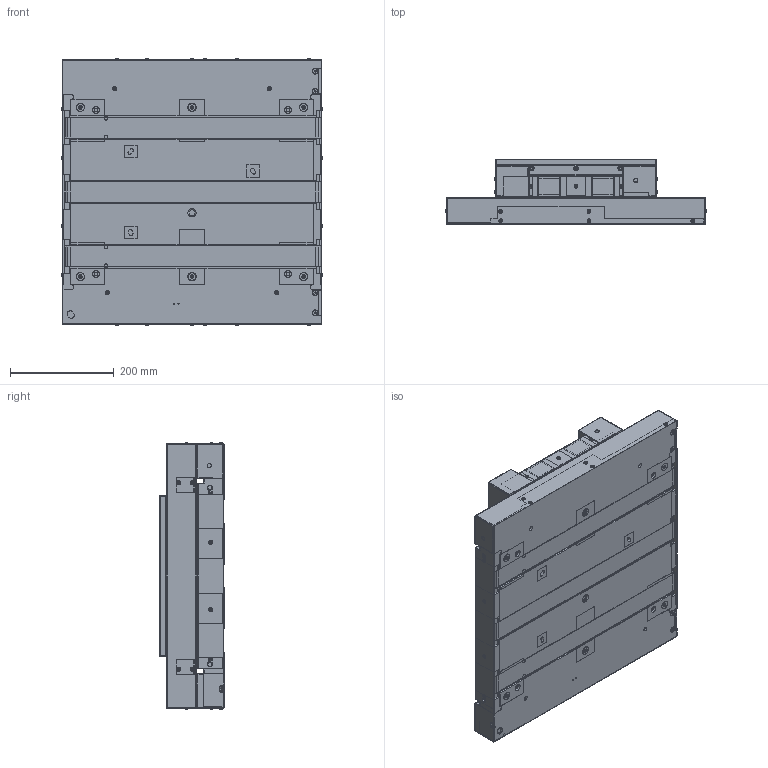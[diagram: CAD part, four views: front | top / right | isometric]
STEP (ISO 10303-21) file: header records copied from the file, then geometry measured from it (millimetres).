
FILE_DESCRIPTION((''),'2;1');
FILE_NAME('782330_218_26_KREUZTISC_318963_ASM','2020-11-02T',('Seidel'),(''),'PRO/ENGINEER BY PARAMETRIC TECHNOLOGY CORPORATION, 2017170','PRO/ENGINEER BY PARAMETRIC TECHNOLOGY CORPORATION, 2017170','');
FILE_SCHEMA(('AUTOMOTIVE_DESIGN { 1 0 10303 214 1 1 1 1 }'));
Products named in the file (4): 318964; 318965; 318966; 782330_218_26_KREUZTISC_318963_ASM
Assembly tree (3 placements, depth 2):
  782330_218_26_KREUZTISC_318963_ASM
    318964
    318965
    318966
Bounding box: 503.4 x 125 x 514.4 mm (x, y, z)
Volume: 19698829.2 mm3; surface area: 2059975 mm2
Topology: 3 solids, 36 shells, 4407 faces, 11537 edges, 7523 vertices
Faces by surface type: plane 3149, cylinder 857, cone 229, bspline 84, torus 84, sphere 4
Entity records: 179027 total; most frequent: CARTESIAN_POINT 28411, ORIENTED_EDGE 23066, DIRECTION 22515, PRESENTATION_STYLE_ASSIGNMENT 11910, STYLED_ITEM 11536, CURVE_STYLE 11533, EDGE_CURVE 11533, VECTOR 8961
